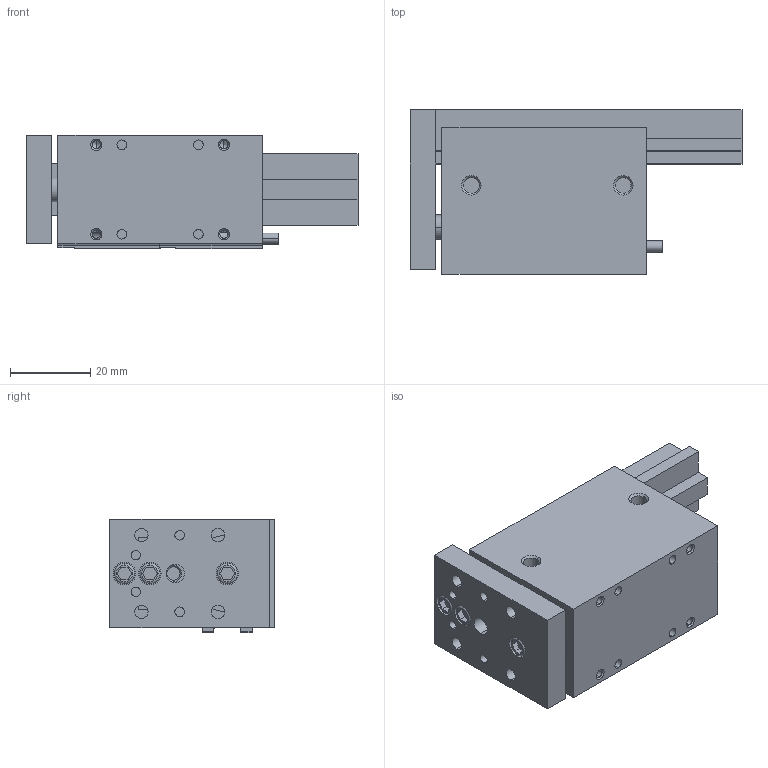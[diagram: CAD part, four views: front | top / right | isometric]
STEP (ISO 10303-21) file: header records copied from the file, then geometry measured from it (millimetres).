
FILE_DESCRIPTION (( 'STEP AP203' ), '1' );
FILE_NAME ('AGMS-2-2 RETRACTED in IN.STEP', '2014-11-06T15:45:59', ( 'setup' ), ( '' ), 'SwSTEP 2.0', 'SolidWorks 2013', '' );
FILE_SCHEMA (( 'CONFIG_CONTROL_DESIGN' ));
Length unit declared in the file: inch
Products named in the file (7): AGMS-2-2 SENSOR; AGMS-2-2 RETRACTED in IN; AGMS-2-2 BODY; AGMS-2-2 TOOL PLATE; AGMS-2-2 CUSHION; AGMS-2-2 PROD; AGMS-2-2 RAIL
Assembly tree (7 placements, depth 2):
  AGMS-2-2 RETRACTED in IN
    AGMS-2-2 BODY
    AGMS-2-2 CUSHION
    AGMS-2-2 RAIL
    AGMS-2-2 TOOL PLATE
    AGMS-2-2 PROD
    AGMS-2-2 SENSOR  x2
Bounding box: 82.55 x 40.84 x 28.2 mm (x, y, z)
Volume: 59923.8 mm3; surface area: 24211.6 mm2
Topology: 7 solids, 7 shells, 315 faces, 728 edges, 460 vertices
Faces by surface type: plane 135, cylinder 124, cone 48, torus 8
Entity records: 9054 total; most frequent: DIRECTION 1515, CARTESIAN_POINT 1493, ORIENTED_EDGE 1310, EDGE_CURVE 655, AXIS2_PLACEMENT_3D 572, VERTEX_POINT 420, VECTOR 371, LINE 371
